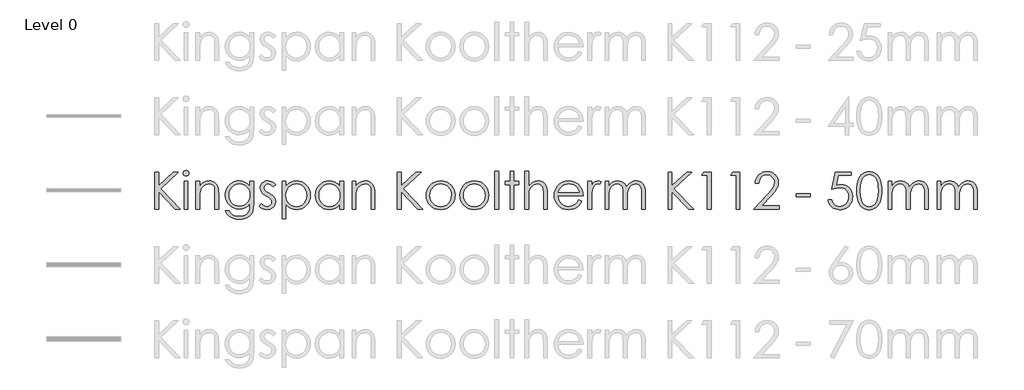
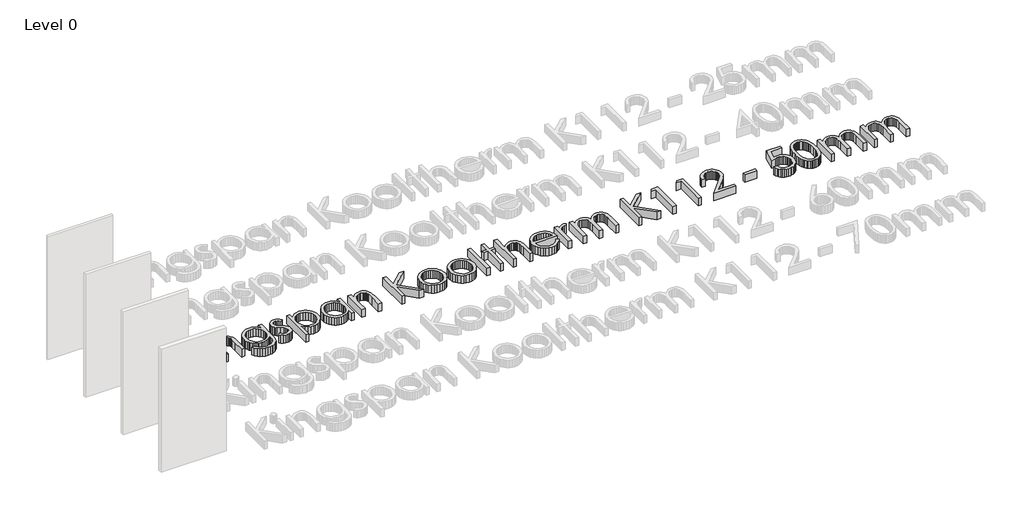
# One storey, part 12 of 14: 1 proxy.
"""IFC4 building model written with IfcOpenShell, lengths in millimetres."""

from ifc_helpers import new_model, si_unit, origin, origin_with_axes, place, context, project, spatial, polyline, outline, extrude, element, save

model = new_model("IFC4")

# Units and contexts
model_context = context("Model", 3, world=origin())
ifc_project = project(units=[si_unit("LENGTHUNIT", "METRE", prefix="MILLI")], contexts=[model_context])

# Site, building, storey
site = spatial("IfcSite", under=ifc_project)
building = spatial("IfcBuilding", under=site)
storey = spatial("IfcBuildingStorey", under=building, Name="Level 0", Elevation=0.0)

# Proxy
placement = place(None, origin())
element("IfcBuildingElementProxy", 1, Name="600mm KI_CenturyGothic", ObjectType="600mm KI_CenturyGothic", at=placement, inside=storey, context=model_context, shape_type="SweptSolid", body=[
    extrude(outline(polyline([(-3852.2663848, 3500.8965983), (-3792.944575, 3500.8965983), (-3792.944575, 3281.683973), (-3555.1938841, 3500.8965983), (-3471.6181051, 3500.8965983), (-3760.9664119, 3233.9484541), (-3441.9572002, 2907.6785001), (-3520.8984627, 2907.6785001), (-3792.944575, 3185.9039675), (-3792.944575, 2907.6785001), (-3852.2663848, 2907.6785001), (-3852.2663848, 3500.8965983)])), origin_with_axes(), (0.0, 0.0, 1.0), 150.0),
    extrude(outline(polyline([(-3348.1854852, 3530.5575033), (-3329.145347, 3527.2747208), (-3313.1176445, 3517.4263735), (-3302.226531, 3502.9821307), (-3298.5961598, 3485.911662), (-3302.226531, 3469.0729191), (-3313.1176445, 3454.7059183), (-3329.145347, 3444.857571), (-3348.1854852, 3441.5747885), (-3366.9938975, 3444.857571), (-3382.9443581, 3454.7059183), (-3393.8354717, 3469.0729191), (-3397.4658428, 3485.911662), (-3393.8354717, 3502.9821307), (-3382.9443581, 3517.4263735), (-3366.9938975, 3527.2747208), (-3348.1854852, 3530.5575033)])), origin_with_axes(), (0.0, 0.0, 1.0), 150.0),
    extrude(outline(polyline([(-3377.6919062, 3352.5920738), (-3318.3700964, 3352.5920738), (-3318.3700964, 2907.6785001), (-3377.6919062, 2907.6785001), (-3377.6919062, 3352.5920738)])), origin_with_axes(), (0.0, 0.0, 1.0), 150.0),
    extrude(outline(polyline([(-3189.8395084, 3352.5920738), (-3130.5176986, 3352.5920738), (-3130.5176986, 3273.4963274), (-3096.9946967, 3313.0055796), (-3060.0730495, 3340.696815), (-3019.7141359, 3357.0334853), (-2975.879335, 3362.4790421), (-2953.4357238, 3360.9004099), (-2932.2955704, 3356.1645135), (-2912.4588747, 3348.2713528), (-2893.9256368, 3337.2209277), (-2877.212412, 3323.4960006), (-2862.835756, 3307.5793333), (-2841.0921499, 3269.1707787), (-2833.6238199, 3244.7912914), (-2828.2892984, 3214.4448643), (-2824.0216812, 3135.8511905), (-2824.0216812, 2907.6785001), (-2883.343491, 2907.6785001), (-2883.343491, 3120.8662542), (-2883.343491, 3223.907002), (-2884.7290183, 3244.7043943), (-2889.8125035, 3262.7596977), (-2898.2849788, 3278.0729123), (-2910.1464442, 3290.644038), (-2924.7403432, 3300.4441091), (-2941.4101193, 3307.4441599), (-2980.977303, 3313.0442006), (-3005.3471351, 3310.8862539), (-3028.4038541, 3304.4124138), (-3050.1474602, 3293.6226803), (-3070.5779533, 3278.5170534), (-3088.6622225, 3260.2348518), (-3103.3671568, 3239.915394), (-3114.6927562, 3217.55868), (-3122.6390208, 3193.1647099), (-3128.5480292, 3146.0857475), (-3130.5176986, 3071.5858965), (-3130.5176986, 2907.6785001), (-3189.8395084, 2907.6785001), (-3189.8395084, 3352.5920738)])), origin_with_axes(), (0.0, 0.0, 1.0), 150.0),
    extrude(outline(polyline([(-2319.7862977, 3352.5920738), (-2260.4644879, 3352.5920738), (-2260.4644879, 3001.604699), (-2264.5196897, 2921.3503235), (-2269.588692, 2890.5500999), (-2276.6852953, 2865.9678526), (-2289.9371156, 2837.3545415), (-2307.2924139, 2812.2267729), (-2328.7511904, 2790.5845469), (-2354.3134448, 2772.4278634), (-2383.3226209, 2758.0656902), (-2415.122162, 2747.8069951), (-2449.7120682, 2741.651778), (-2487.0923395, 2739.6000389), (-2541.0458345, 2743.6166198), (-2589.206184, 2755.6663624), (-2630.260275, 2774.4940853), (-2662.8949946, 2798.8446068), (-2690.2000204, 2832.1938144), (-2715.2650299, 2878.0175952), (-2655.94322, 2878.0175952), (-2642.4355358, 2856.848476), (-2627.0933555, 2838.6048954), (-2609.9166791, 2823.2868532), (-2590.9055067, 2810.8943494), (-2569.7894914, 2801.3308318), (-2546.2982864, 2794.4997477), (-2492.1903075, 2789.0348805), (-2438.5071593, 2794.3645743), (-2415.083541, 2801.0266916), (-2393.93856, 2810.3536559), (-2359.6624492, 2834.3952097), (-2336.8567664, 2863.8823202), (-2329.3884364, 2882.5217658), (-2324.0539149, 2906.2302137), (-2319.7862977, 2968.8541165), (-2319.7862977, 2991.5632468), (-2354.757586, 2955.7809182), (-2396.6420279, 2929.3834852), (-2443.392712, 2913.1047464), (-2492.9627269, 2907.6785001), (-2522.4063889, 2909.5757553), (-2550.9521133, 2915.2675207), (-2578.5999001, 2924.7537964), (-2605.3497494, 2938.0345825), (-2630.1540674, 2954.5257366), (-2651.9652601, 2973.6431168), (-2670.7833277, 2995.3867228), (-2686.6082702, 3019.7565549), (-2699.1456025, 3046.0719183), (-2708.1008399, 3073.6521184), (-2713.4739824, 3102.4971553), (-2715.2650299, 3132.607029), (-2713.3967404, 3162.8955247), (-2707.7918722, 3192.1219437), (-2698.4504251, 3220.286286), (-2685.3723991, 3247.3885517), (-2668.9971079, 3272.5742517), (-2649.7638648, 3294.9888971), (-2627.67267, 3314.632488), (-2602.7235235, 3331.5050242), (-2575.9833294, 3345.056157), (-2548.5189922, 3354.7355376), (-2520.3305117, 3360.543166), (-2491.4178881, 3362.4790421), (-2444.5320306, 3357.5355579), (-2400.8903346, 3342.7051055), (-2359.6045177, 3316.1338782), (-2319.7862977, 3275.9680694), (-2319.7862977, 3352.5920738)]), holes=[polyline([(-2484.1571458, 3313.0442006), (-2529.0154023, 3307.0193293), (-2570.5908765, 3288.9447153), (-2606.2187212, 3260.2300242), (-2633.2340897, 3222.2849212), (-2650.2659375, 3178.0059792), (-2655.94322, 3130.2897708), (-2653.0080263, 3094.3770964), (-2644.2024452, 3061.7182387), (-2629.5264766, 3032.3131977), (-2608.9801206, 3006.1619734), (-2583.7606272, 2984.703197), (-2555.0652466, 2969.3754996), (-2522.8939786, 2960.1788811), (-2487.2468234, 2957.1133416), (-2451.3244937, 2960.154743), (-2419.1001219, 2969.2789472), (-2390.573708, 2984.4859541), (-2365.7452519, 3005.7757637), (-2345.6382095, 3032.0187128), (-2331.2760363, 3062.0851379), (-2322.6587323, 3095.975039), (-2319.7862977, 3133.6884162), (-2325.0773706, 3182.3894593), (-2340.9505892, 3225.6063246), (-2366.4983608, 3261.8327944), (-2400.8130926, 3289.5626508), (-2440.9982119, 3307.1738131), (-2484.1571458, 3313.0442006)])]), origin_with_axes(), (0.0, 0.0, 1.0), 150.0),
    extrude(outline(polyline([(-1904.5336289, 3301.3034257), (-1940.9918246, 3263.609359), (-1962.9575012, 3285.2371022), (-1984.6721416, 3300.6854902), (-2006.1357456, 3309.954523), (-2027.3483133, 3313.0442006), (-2052.181597, 3308.3710632), (-2073.2300256, 3294.3516511), (-2087.5970264, 3274.1142629), (-2092.3860267, 3250.787197), (-2088.4466878, 3229.2366958), (-2076.628671, 3208.7675817), (-2052.0657341, 3186.599145), (-2010.2006027, 3160.877579), (-1958.3326401, 3128.0111336), (-1939.8428507, 3112.1861912), (-1926.315856, 3096.7667689), (-1909.9791857, 3064.0934284), (-1904.5336289, 3027.5579908), (-1906.9474396, 3001.4115941), (-1914.1888714, 2977.3507299), (-1926.2579245, 2955.375398), (-1943.1545989, 2935.4855985), (-1963.6719892, 2918.9944443), (-1986.6031901, 2907.2150485), (-2011.9482016, 2900.147411), (-2039.7070237, 2897.7915318), (-2077.4397114, 2901.6729393), (-2113.3958344, 2913.3171617), (-2145.4512394, 2931.7972958), (-2171.4817731, 2956.1864383), (-2135.7959969, 2996.6612148), (-2114.0041146, 2975.0334717), (-2091.5749863, 2959.5850837), (-2068.5086121, 2950.3160509), (-2044.8049918, 2947.2263733), (-2013.637869, 2952.8650349), (-1987.4914724, 2969.7810198), (-1969.7644472, 2994.3439566), (-1963.8554388, 3022.9234744), (-1967.7561567, 3046.7139919), (-1979.4583106, 3067.7237995), (-2005.0253927, 3089.4287846), (-2050.2119275, 3116.2317378), (-2099.762632, 3146.8967879), (-2117.441381, 3162.0555186), (-2130.3890611, 3177.0983864), (-2146.3781427, 3209.2310334), (-2151.7078365, 3245.689229), (-2149.5305794, 3269.7356104), (-2142.9988078, 3291.6674937), (-2132.1125219, 3311.4848789), (-2116.8717217, 3329.187766), (-2098.309518, 3343.7526993), (-2077.4590218, 3354.1562231), (-2054.3202332, 3360.3983373), (-2028.8931521, 3362.4790421), (-1997.9481, 3358.6555661), (-1966.9064954, 3347.185138), (-1935.7683384, 3328.0677579), (-1904.5336289, 3301.3034257)])), origin_with_axes(), (0.0, 0.0, 1.0), 150.0),
    extrude(outline(polyline([(-1795.7769776, 3352.5920738), (-1736.4551678, 3352.5920738), (-1736.4551678, 3271.4880369), (-1700.9238754, 3311.7310876), (-1660.4490989, 3340.0788795), (-1614.9922173, 3356.8790014), (-1564.5146096, 3362.4790421), (-1520.0618732, 3358.2403906), (-1478.9305402, 3345.5244363), (-1441.1206107, 3324.331179), (-1406.6320845, 3294.6606189), (-1377.9077381, 3259.0231189), (-1357.3903478, 3219.929042), (-1345.0799137, 3177.3783884), (-1340.9764356, 3131.371158), (-1345.0412927, 3084.4708176), (-1357.235864, 3041.2491246), (-1377.5601494, 3001.706079), (-1406.014149, 2965.8416808), (-1440.2130179, 2936.0697406), (-1477.7719111, 2914.8040691), (-1518.6908288, 2902.0446661), (-1562.9697708, 2897.7915318), (-1612.6170277, 2903.256399), (-1658.0545988, 2919.6510008), (-1699.3211052, 2946.8980951), (-1736.4551678, 2984.92044), (-1736.4551678, 2749.4870072), (-1795.7769776, 2749.4870072), (-1795.7769776, 3352.5920738)]), holes=[polyline([(-1568.5311905, 3313.0442006), (-1602.5852307, 3309.7469353), (-1633.8392507, 3299.8551393), (-1662.2932503, 3283.3688128), (-1687.9472295, 3260.2879556), (-1709.1694525, 3232.3022353), (-1724.3281832, 3201.1013192), (-1733.4234216, 3166.6852074), (-1736.4551678, 3129.0538998), (-1731.048232, 3080.1983728), (-1714.8274246, 3036.5180558), (-1688.5265441, 2999.6736505), (-1652.8793888, 2971.3258586), (-1611.4390881, 2953.2512446), (-1567.7587711, 2947.2263733), (-1525.0632888, 2953.2898656), (-1485.0326535, 2971.4803424), (-1450.2544701, 3000.5812433), (-1423.3163435, 3039.3760076), (-1406.05277, 3084.0411593), (-1400.2982454, 3130.7532225), (-1405.9948385, 3177.6970114), (-1423.0846177, 3222.1304373), (-1449.8103289, 3260.4810605), (-1484.414718, 3289.1764411), (-1524.7157001, 3307.0772607), (-1568.5311905, 3313.0442006)])]), origin_with_axes(), (0.0, 0.0, 1.0), 150.0),
    extrude(outline(polyline([(-807.0801472, 3352.5920738), (-807.0801472, 2907.6785001), (-866.401957, 2907.6785001), (-866.401957, 2983.5300851), (-903.4780882, 2945.6815345), (-944.8797679, 2918.9558233), (-990.4525125, 2903.0826047), (-1040.0418379, 2897.7915318), (-1084.3159523, 2902.0446661), (-1125.2203871, 2914.8040691), (-1162.7551422, 2936.0697406), (-1196.9202178, 2965.8416808), (-1225.340424, 3001.706079), (-1245.6405713, 3041.2491246), (-1257.8206597, 3084.4708176), (-1261.8806892, 3131.371158), (-1257.7820388, 3177.3783884), (-1245.4860875, 3219.929042), (-1224.9928353, 3259.0231189), (-1196.3022822, 3294.6606189), (-1161.8475494, 3324.331179), (-1124.061758, 3345.5244363), (-1082.9449079, 3358.2403906), (-1038.4969991, 3362.4790421), (-987.7490446, 3356.8790014), (-942.0990581, 3340.0788795), (-921.2051134, 3327.3918909), (-901.6242816, 3311.7310876), (-866.401957, 3271.4880369), (-866.401957, 3352.5920738), (-807.0801472, 3352.5920738)]), holes=[polyline([(-1034.3259343, 3313.0442006), (-1078.1414247, 3307.0772607), (-1118.4424068, 3289.1764411), (-1153.0467959, 3260.4810605), (-1179.7725071, 3222.1304373), (-1196.8622863, 3177.6970114), (-1202.5588794, 3130.7532225), (-1196.8043548, 3084.0411593), (-1179.5407813, 3039.3760076), (-1152.6026548, 3000.5812433), (-1117.8244713, 2971.4803424), (-1077.6779731, 2953.2898656), (-1034.6349021, 2947.2263733), (-991.0125165, 2953.2512446), (-949.7460102, 2971.3258586), (-914.2726493, 2999.6736505), (-888.0297002, 3036.5180558), (-871.8088928, 3080.1983728), (-866.401957, 3129.0538998), (-869.4337032, 3166.6852074), (-878.5289416, 3201.1013192), (-893.6876723, 3232.3022353), (-914.9098953, 3260.2879556), (-940.5638746, 3283.3688128), (-969.0178742, 3299.8551393), (-1000.2718941, 3309.7469353), (-1034.3259343, 3313.0442006)])]), origin_with_axes(), (0.0, 0.0, 1.0), 150.0),
    extrude(outline(polyline([(-668.662591, 3352.5920738), (-609.3407811, 3352.5920738), (-609.3407811, 3273.4963274), (-575.8177792, 3313.0055796), (-538.896132, 3340.696815), (-498.5372184, 3357.0334853), (-454.7024175, 3362.4790421), (-432.2588064, 3360.9004099), (-411.1186529, 3356.1645135), (-391.2819572, 3348.2713528), (-372.7487193, 3337.2209277), (-356.0354946, 3323.4960006), (-341.6588385, 3307.5793333), (-319.9152324, 3269.1707787), (-312.4469024, 3244.7912914), (-307.1123809, 3214.4448643), (-302.8447637, 3135.8511905), (-302.8447637, 2907.6785001), (-362.1665735, 2907.6785001), (-362.1665735, 3120.8662542), (-362.1665735, 3223.907002), (-363.5521008, 3244.7043943), (-368.635586, 3262.7596977), (-377.1080613, 3278.0729123), (-388.9695267, 3290.644038), (-403.5634257, 3300.4441091), (-420.2332018, 3307.4441599), (-459.8003855, 3313.0442006), (-484.1702176, 3310.8862539), (-507.2269366, 3304.4124138), (-528.9705427, 3293.6226803), (-549.4010358, 3278.5170534), (-567.485305, 3260.2348518), (-582.1902393, 3239.915394), (-593.5158387, 3217.55868), (-601.4621033, 3193.1647099), (-607.3711117, 3146.0857475), (-609.3407811, 3071.5858965), (-609.3407811, 2907.6785001), (-668.662591, 2907.6785001), (-668.662591, 3352.5920738)])), origin_with_axes(), (0.0, 0.0, 1.0), 150.0),
    extrude(outline(polyline([(62.9730635, 3500.8965983), (122.2948734, 3500.8965983), (122.2948734, 3281.683973), (360.0455643, 3500.8965983), (443.6213432, 3500.8965983), (154.2730365, 3233.9484541), (473.2822481, 2907.6785001), (394.3409856, 2907.6785001), (122.2948734, 3185.9039675), (122.2948734, 2907.6785001), (62.9730635, 2907.6785001), (62.9730635, 3500.8965983)])), origin_with_axes(), (0.0, 0.0, 1.0), 150.0),
    extrude(outline(polyline([(760.1588128, 3362.4790421), (809.4681362, 3357.8541809), (854.3553585, 3343.9795975), (894.8204798, 3320.8552917), (930.8635, 3288.4812637), (957.7630055, 3253.2492839), (976.9769381, 3214.908316), (988.5052976, 3173.45836), (992.3480841, 3128.8994159), (988.283227, 3084.0846079), (976.0886558, 3042.1760279), (955.7643703, 3003.1736759), (927.3103707, 2967.0775519), (892.4742558, 2936.7649181), (853.0036246, 2915.1130368), (808.8984769, 2902.1219081), (760.1588128, 2897.7915318), (711.2839754, 2902.1219081), (667.0822753, 2915.1130368), (627.5537126, 2936.7649181), (592.6982872, 2967.0775519), (564.2442876, 3003.1736759), (543.9200022, 3042.1760279), (531.7254309, 3084.0846079), (527.6605738, 3128.8994159), (531.5033603, 3173.2652551), (543.0317198, 3214.5993482), (562.2456524, 3252.9016951), (589.145158, 3288.1722959), (625.2074886, 3320.6814974), (665.7305413, 3343.9023555), (710.7143161, 3357.8348705), (760.1588128, 3362.4790421)]), holes=[polyline([(760.004329, 3313.0442006), (725.7282181, 3309.6696933), (693.9624704, 3299.5461716), (664.7070856, 3282.6736353), (637.962064, 3259.0520846), (615.6584538, 3230.6415336), (599.7273037, 3199.4019965), (590.1686137, 3165.3334734), (586.9823836, 3128.4359643), (592.7948396, 3080.7004454), (610.2322075, 3036.3635719), (637.5758543, 2998.5729529), (673.1071466, 2970.4761972), (714.6439998, 2953.0388293), (760.004329, 2947.2263733), (805.3646581, 2953.0388293), (846.9015113, 2970.4761972), (882.4328037, 2998.5729529), (909.7764504, 3036.3635719), (927.2138183, 3080.7004454), (933.0262743, 3128.4359643), (929.8255614, 3165.3334734), (920.2234227, 3199.4019965), (904.2198583, 3230.6415336), (881.8148681, 3259.0520846), (854.9974321, 3282.6736353), (825.7565303, 3299.5461716), (794.0921625, 3309.6696933), (760.004329, 3313.0442006)])]), origin_with_axes(), (0.0, 0.0, 1.0), 150.0),
    extrude(outline(polyline([(1303.9420695, 3362.4790421), (1353.2513929, 3357.8541809), (1398.1386152, 3343.9795975), (1438.6037365, 3320.8552917), (1474.6467567, 3288.4812637), (1501.5462622, 3253.2492839), (1520.7601948, 3214.908316), (1532.2885543, 3173.45836), (1536.1313408, 3128.8994159), (1532.0664837, 3084.0846079), (1519.8719125, 3042.1760279), (1499.547627, 3003.1736759), (1471.0936274, 2967.0775519), (1436.2575126, 2936.7649181), (1396.7868813, 2915.1130368), (1352.6817336, 2902.1219081), (1303.9420695, 2897.7915318), (1255.0672321, 2902.1219081), (1210.865532, 2915.1130368), (1171.3369693, 2936.7649181), (1136.4815439, 2967.0775519), (1108.0275443, 3003.1736759), (1087.7032589, 3042.1760279), (1075.5086876, 3084.0846079), (1071.4438305, 3128.8994159), (1075.286617, 3173.2652551), (1086.8149766, 3214.5993482), (1106.0289091, 3252.9016951), (1132.9284147, 3288.1722959), (1168.9907453, 3320.6814974), (1209.5137981, 3343.9023555), (1254.4975728, 3357.8348705), (1303.9420695, 3362.4790421)]), holes=[polyline([(1303.7875857, 3313.0442006), (1269.5114748, 3309.6696933), (1237.7457271, 3299.5461716), (1208.4903423, 3282.6736353), (1181.7453207, 3259.0520846), (1159.4417105, 3230.6415336), (1143.5105604, 3199.4019965), (1133.9518704, 3165.3334734), (1130.7656404, 3128.4359643), (1136.5780963, 3080.7004454), (1154.0154643, 3036.3635719), (1181.359111, 2998.5729529), (1216.8904033, 2970.4761972), (1258.4272565, 2953.0388293), (1303.7875857, 2947.2263733), (1349.1479149, 2953.0388293), (1390.684768, 2970.4761972), (1426.2160604, 2998.5729529), (1453.5597071, 3036.3635719), (1470.997075, 3080.7004454), (1476.809531, 3128.4359643), (1473.6088181, 3165.3334734), (1464.0066795, 3199.4019965), (1448.003115, 3230.6415336), (1425.5981249, 3259.0520846), (1398.7806889, 3282.6736353), (1369.539787, 3299.5461716), (1337.8754193, 3309.6696933), (1303.7875857, 3313.0442006)])]), origin_with_axes(), (0.0, 0.0, 1.0), 150.0),
    extrude(outline(polyline([(1635.0010238, 3520.6705349), (1694.3228337, 3520.6705349), (1694.3228337, 2907.6785001), (1635.0010238, 2907.6785001), (1635.0010238, 3520.6705349)])), origin_with_axes(), (0.0, 0.0, 1.0), 150.0),
    extrude(outline(polyline([(1882.1752314, 3520.6705349), (1941.4970413, 3520.6705349), (1941.4970413, 3352.5920738), (2020.5927877, 3352.5920738), (2020.5927877, 3303.1572323), (1941.4970413, 3303.1572323), (1941.4970413, 2907.6785001), (1882.1752314, 2907.6785001), (1882.1752314, 3303.1572323), (1803.079485, 3303.1572323), (1803.079485, 3352.5920738), (1882.1752314, 3352.5920738), (1882.1752314, 3520.6705349)])), origin_with_axes(), (0.0, 0.0, 1.0), 150.0),
    extrude(outline(polyline([(2119.4624707, 3520.6705349), (2178.7842806, 3520.6705349), (2178.7842806, 3271.9514886), (2212.5583188, 3311.6538456), (2249.6151394, 3339.9243956), (2289.9161216, 3356.8403805), (2333.4226442, 3362.4790421), (2355.8662553, 3360.9004099), (2377.0064088, 3356.1645135), (2396.8431044, 3348.2713528), (2415.3763424, 3337.2209277), (2432.0895671, 3323.5104834), (2446.4662232, 3307.6372648), (2468.2098293, 3269.4025045), (2475.6781593, 3245.0954316), (2481.0126808, 3214.7345216), (2485.280298, 3135.8511905), (2485.280298, 2907.6785001), (2425.9584882, 2907.6785001), (2425.9584882, 3120.8662542), (2424.5681332, 3185.247411), (2420.3970685, 3223.907002), (2406.879729, 3262.7596977), (2397.1665551, 3278.0729123), (2385.4837117, 3290.644038), (2371.840854, 3300.4441091), (2356.2476374, 3307.4441599), (2319.2101273, 3313.0442006), (2296.3416854, 3310.8862539), (2274.6994594, 3304.4124138), (2254.2834492, 3293.6226803), (2235.0936547, 3278.5170534), (2218.1052556, 3260.2348518), (2204.2934312, 3239.915394), (2193.6581816, 3217.55868), (2186.1995068, 3193.1647099), (2180.6380871, 3146.3174733), (2178.7842806, 3071.5858965), (2178.7842806, 2907.6785001), (2119.4624707, 2907.6785001), (2119.4624707, 3520.6705349)])), origin_with_axes(), (0.0, 0.0, 1.0), 150.0),
    extrude(outline(polyline([(2991.0605203, 3055.9830247), (3038.950523, 3030.8021523), (3013.3255094, 2988.9177104), (2984.0315038, 2955.9547125), (2950.952643, 2930.8703926), (2913.9730643, 2912.6219843), (2872.4941426, 2901.4991449), (2825.9172528, 2897.7915318), (2774.4258447, 2902.2232881), (2728.8627554, 2915.518557), (2689.227985, 2937.6773385), (2655.5215335, 2968.6996326), (2628.6220279, 3005.3026569), (2609.4080954, 3044.2036288), (2597.8797358, 3085.4025485), (2594.0369493, 3128.8994159), (2597.3197318, 3169.7797126), (2607.1680791, 3208.381372), (2623.5819913, 3244.7043943), (2646.5614684, 3278.7487793), (2682.7493173, 3315.3807692), (2724.5758277, 3341.5464764), (2772.0409998, 3357.2459007), (2825.1448334, 3362.4790421), (2879.7935059, 3357.1107273), (2928.6490329, 3341.0057828), (2971.7114143, 3314.1642087), (3008.9806503, 3276.5860049), (3030.4539096, 3244.414737), (3045.9022976, 3208.458614), (3055.3258143, 3168.7176359), (3058.7244596, 3125.1918028), (2653.3587591, 3125.1918028), (2657.095338, 3087.9370497), (2666.6057518, 3054.1871496), (2681.8900007, 3023.9421025), (2702.9480845, 2997.2019084), (2728.3124066, 2975.3376118), (2756.5153699, 2959.7202571), (2787.5569744, 2950.3498443), (2821.4372203, 2947.2263733), (2854.9602222, 2950.238809), (2887.5563208, 2959.2761159), (2917.2944677, 2973.3148385), (2942.2436143, 2991.331521), (2965.725164, 3017.4972281), (2991.0605203, 3055.9830247)]), holes=[polyline([(2999.4026498, 3174.6266443), (2984.9777175, 3217.1483322), (2965.1844704, 3250.1692615), (2939.0766947, 3275.6977226), (2905.7081767, 3295.742006), (2867.7630738, 3308.7186519), (2827.9255433, 3313.0442006), (2795.503239, 3310.3310774), (2765.4368139, 3302.191708), (2737.726268, 3288.6260923), (2712.3716012, 3269.6342304), (2695.8321708, 3251.820308), (2681.4362043, 3230.0477362), (2669.1837016, 3204.316515), (2659.0746627, 3174.6266443), (2999.4026498, 3174.6266443)])]), origin_with_axes(), (0.0, 0.0, 1.0), 150.0),
    extrude(outline(polyline([(3137.820206, 3352.5920738), (3197.1420159, 3352.5920738), (3197.1420159, 3288.1722959), (3222.6897875, 3321.2125357), (3249.589293, 3344.3271862), (3277.7632906, 3357.9410781), (3307.1345382, 3362.4790421), (3330.4616041, 3358.694187), (3355.3335087, 3347.3396219), (3325.8270877, 3305.3200066), (3297.2475699, 3313.0442006), (3270.8308265, 3307.0965712), (3245.3409863, 3289.2536831), (3223.2884125, 3258.8976007), (3207.183468, 3215.4103886), (3199.6523789, 3157.2858288), (3197.1420159, 3059.8451217), (3197.1420159, 2907.6785001), (3137.820206, 2907.6785001), (3137.820206, 3352.5920738)])), origin_with_axes(), (0.0, 0.0, 1.0), 150.0),
    extrude(outline(polyline([(3414.6553185, 3352.5920738), (3473.9771284, 3352.5920738), (3473.9771284, 3276.4315211), (3503.5607913, 3312.9283377), (3533.9168737, 3338.0705891), (3577.3268439, 3356.3769288), (3622.8995884, 3362.4790421), (3653.7384329, 3359.331433), (3682.9165757, 3349.8886059), (3708.6767627, 3335.2126373), (3729.2617397, 3316.365604), (3746.0425511, 3290.9336953), (3760.3902414, 3256.5031006), (3775.16759, 3280.9018983), (3791.6925376, 3302.191708), (3809.965084, 3320.3725296), (3829.9852293, 3335.4443631), (3851.2798666, 3347.2720352), (3873.375889, 3355.7203723), (3896.2732965, 3360.7893747), (3919.9720892, 3362.4790421), (3962.3006723, 3356.6665861), (3981.4952943, 3349.4010161), (3999.3768034, 3339.2292182), (4015.4914031, 3326.46016), (4029.385297, 3311.4028093), (4050.5109676, 3274.4232306), (4057.8103309, 3251.0478886), (4063.0241619, 3222.4780261), (4067.1952266, 3149.7547397), (4067.1952266, 2907.6785001), (4007.8734168, 2907.6785001), (4007.8734168, 3153.3078689), (4005.4209852, 3214.4255538), (3998.0636904, 3252.8727294), (3984.7587663, 3277.3391139), (3964.4634466, 3296.5144254), (3938.3942919, 3308.9117568), (3907.7678627, 3313.0442006), (3888.1194443, 3311.4945341), (3869.3399976, 3306.8455349), (3834.3880198, 3288.2495379), (3805.6540182, 3259.3031209), (3785.8800816, 3222.0531954), (3779.1889985, 3197.8957787), (3774.4096535, 3166.8252084), (3770.5861775, 3083.9446069), (3770.5861775, 2907.6785001), (3711.2643677, 2907.6785001), (3711.2643677, 3138.0139648), (3708.850557, 3206.469634), (3701.6091252, 3248.7016647), (3688.3621325, 3274.9446137), (3667.9316394, 3295.4330383), (3641.6114484, 3308.64141), (3610.6953619, 3313.0442006), (3573.7544042, 3307.0000188), (3539.2465676, 3288.8674734), (3510.2808401, 3260.500371), (3489.9662099, 3223.7525181), (3477.9743988, 3171.9231764), (3473.9771284, 3098.3116077), (3473.9771284, 2907.6785001), (3414.6553185, 2907.6785001), (3414.6553185, 3352.5920738)])), origin_with_axes(), (0.0, 0.0, 1.0), 150.0),
    extrude(outline(polyline([(4433.0130538, 3500.8965983), (4492.3348637, 3500.8965983), (4492.3348637, 3281.683973), (4730.0855546, 3500.8965983), (4813.6613335, 3500.8965983), (4524.3130268, 3233.9484541), (4843.3222385, 2907.6785001), (4764.3809759, 2907.6785001), (4492.3348637, 3185.9039675), (4492.3348637, 2907.6785001), (4433.0130538, 2907.6785001), (4433.0130538, 3500.8965983)])), origin_with_axes(), (0.0, 0.0, 1.0), 150.0),
    extrude(outline(polyline([(5010.6282802, 3500.8965983), (5125.1008351, 3500.8965983), (5125.1008351, 2907.6785001), (5065.7790253, 2907.6785001), (5065.7790253, 3451.4617568), (4976.7963106, 3451.4617568), (5010.6282802, 3500.8965983)])), origin_with_axes(), (0.0, 0.0, 1.0), 150.0),
    extrude(outline(polyline([(5475.3157905, 3500.8965983), (5589.7883454, 3500.8965983), (5589.7883454, 2907.6785001), (5530.4665356, 2907.6785001), (5530.4665356, 3451.4617568), (5441.4838208, 3451.4617568), (5475.3157905, 3500.8965983)])), origin_with_axes(), (0.0, 0.0, 1.0), 150.0),
    extrude(outline(polyline([(5896.2843628, 3322.9311689), (5836.962553, 3322.9311689), (5841.4474131, 3362.1893848), (5852.5847353, 3397.7786086), (5870.3745196, 3429.6988403), (5894.816766, 3457.9500798), (5924.2121517, 3481.0647303), (5956.8613542, 3497.5751949), (5992.7643733, 3507.4814737), (6031.9212092, 3510.7835666), (6070.3925229, 3507.4863013), (6105.0113948, 3497.5945054), (6135.777825, 3481.1081789), (6162.6918135, 3458.0273217), (6184.5561101, 3430.466432), (6200.1734648, 3400.540008), (6209.5438776, 3368.2480495), (6212.6673485, 3333.5905566), (6206.5845458, 3284.7929611), (6188.3361375, 3239.1236641), (6152.5538088, 3187.236391), (6093.869245, 3119.784867), (5941.084688, 2957.1133416), (6222.5543169, 2957.1133416), (6222.5543169, 2907.6785001), (5817.1886164, 2907.6785001), (6043.1985325, 3148.3643848), (6099.9327373, 3213.8848603), (6132.6446988, 3259.9789879), (6148.1703288, 3297.3447763), (6153.3455387, 3336.6802342), (6151.0958672, 3361.2866196), (6144.3468527, 3384.1260957), (6133.0984952, 3405.1986625), (6117.3507947, 3424.5043198), (6098.3396223, 3440.6237471), (6077.3008489, 3452.1376238), (6054.2344746, 3459.0459498), (6029.1404994, 3461.3487251), (6002.8058255, 3459.0749155), (5978.7980651, 3452.2534867), (5957.1172181, 3440.8844387), (5937.7632845, 3424.9677714), (5921.5279943, 3404.9476262), (5909.2030773, 3381.268144), (5900.7885334, 3353.9293249), (5896.2843628, 3322.9311689)])), origin_with_axes(), (0.0, 0.0, 1.0), 150.0),
    extrude(outline(polyline([(6499.3894294, 3154.8527077), (6726.7897004, 3154.8527077), (6726.7897004, 3105.4178662), (6499.3894294, 3105.4178662), (6499.3894294, 3154.8527077)])), origin_with_axes(), (0.0, 0.0, 1.0), 150.0),
    extrude(outline(polyline([(7389.2165767, 3500.8965983), (7389.2165767, 3451.4617568), (7181.8992101, 3451.4617568), (7147.4493049, 3290.4895541), (7185.0275087, 3299.9903127), (7218.6663735, 3303.1572323), (7258.2528677, 3299.7344488), (7294.2089907, 3289.4660984), (7326.5347425, 3272.3521811), (7355.2301232, 3248.3926969), (7378.7502939, 3219.0842083), (7395.5504158, 3185.923278), (7405.6304889, 3148.909906), (7408.9905133, 3108.0440921), (7407.2670525, 3079.0783647), (7402.0966702, 3051.3485083), (7393.4793663, 3024.8545229), (7381.4151408, 2999.5964086), (7366.410894, 2976.3948609), (7348.973526, 2956.0705754), (7329.103037, 2938.6235523), (7306.7994269, 2924.0537914), (7282.3668358, 2912.5640528), (7256.1094038, 2904.3570967), (7228.0271311, 2899.432923), (7198.1200175, 2897.7915318), (7162.7866576, 2900.5481035), (7130.3209047, 2908.8178187), (7100.7227589, 2922.6006774), (7073.9922201, 2941.8966795), (7051.2396412, 2965.5665064), (7033.575375, 2992.4708396), (7020.9994217, 3022.609679), (7013.5117812, 3055.9830247), (7072.833591, 3055.9830247), (7082.4115915, 3023.2517526), (7096.9330762, 2997.3563923), (7116.7649443, 2977.0417621), (7142.2740949, 2961.0526806), (7171.2977538, 2950.6829501), (7201.6731467, 2947.2263733), (7230.9623248, 2950.1519118), (7258.1176943, 2958.9285272), (7283.1392552, 2973.5562196), (7306.0270075, 2994.0349889), (7325.1202495, 3018.9068935), (7338.7582795, 3046.7139919), (7346.9410975, 3077.456284), (7349.6687035, 3111.1337697), (7347.2066167, 3141.3208854), (7339.8203562, 3168.5438415), (7327.509922, 3192.8026383), (7310.2753142, 3214.0972756), (7288.9179178, 3231.4332635), (7264.239118, 3243.816112), (7236.2389148, 3251.245821), (7204.9173082, 3253.7223907), (7176.2122723, 3251.8685842), (7144.6299741, 3246.3071645), (7072.833591, 3224.0614858), (7132.1554008, 3500.8965983), (7389.2165767, 3500.8965983)])), origin_with_axes(), (0.0, 0.0, 1.0), 150.0),
    extrude(outline(polyline([(7478.1992914, 3204.1330653), (7479.7779236, 3258.5644948), (7484.51382, 3306.4593252), (7492.4069808, 3347.8175564), (7503.4574058, 3382.6391884), (7517.3850931, 3412.2807828), (7533.9100406, 3438.0989012), (7553.0322483, 3460.0935436), (7574.7517163, 3478.26471), (7598.4456813, 3492.4917098), (7623.4913804, 3502.6538525), (7649.8888133, 3508.7511381), (7677.6379802, 3510.7835666), (7705.8409435, 3508.7366552), (7732.6728624, 3502.595921), (7758.1337368, 3492.361364), (7782.2235668, 3478.0329841), (7804.4064864, 3459.6156091), (7824.1466297, 3437.1140665), (7841.4439966, 3410.5283563), (7856.2985871, 3379.8584786), (7868.2276392, 3344.3416691), (7876.7483907, 3303.2151637), (7881.8608416, 3256.4789625), (7883.5649919, 3204.1330653), (7881.8849797, 3151.9464797), (7876.8449431, 3105.3792452), (7868.4448822, 3064.4313618), (7856.6847968, 3029.1028296), (7841.9750349, 2998.5777805), (7824.7259442, 2972.0403465), (7804.9375247, 2949.4905277), (7782.6097765, 2930.928324), (7758.3509797, 2916.4309774), (7732.7694148, 2906.0757299), (7705.8650816, 2899.8625813), (7677.6379802, 2897.7915318), (7649.9129514, 2899.7998222), (7623.5879328, 2905.8246936), (7598.6629243, 2915.8661457), (7575.137926, 2929.9241788), (7553.5632867, 2947.9601718), (7534.4893551, 2969.9355036), (7517.9161314, 2995.8501745), (7503.8436155, 3025.7041842), (7492.6242237, 3060.7237487), (7484.6103725, 3102.1350837), (7479.8020617, 3149.9381893), (7478.1992914, 3204.1330653)]), holes=[polyline([(7537.5211013, 3204.2875492), (7541.9045814, 3115.961391), (7547.3839315, 3080.9804475), (7555.0550216, 3052.1209277), (7564.8695756, 3027.8814414), (7576.7793172, 3006.7605985), (7590.7842464, 2988.7583989), (7606.8843633, 2973.8748426), (7642.1839298, 2953.8884906), (7660.586822, 2948.8919027), (7679.4917868, 2947.2263733), (7698.4836487, 2948.8581093), (7716.8382647, 2953.7533172), (7751.6357586, 2973.334149), (7767.3931143, 2988.0101176), (7781.1421796, 3005.9302476), (7792.8829545, 3027.0945392), (7802.6154389, 3051.5029922), (7812.0775766, 3084.8618549), (7818.8362463, 3121.4455687), (7824.2431821, 3204.2875492), (7819.4155608, 3285.8936587), (7813.3810343, 3320.5849449), (7804.9326971, 3351.2017189), (7794.3505514, 3377.864671), (7781.914599, 3400.6944918), (7767.6248402, 3419.6911814), (7751.4812747, 3434.8547397), (7716.413434, 3454.7252288), (7698.1843362, 3459.692851), (7679.4917868, 3461.3487251), (7660.4757867, 3459.692851), (7642.0487564, 3454.7252288), (7606.9616052, 3434.8547397), (7591.0159723, 3420.0435978), (7577.088285, 3402.1041572), (7565.1785434, 3381.0364181), (7555.2867474, 3356.8403805), (7547.5142772, 3327.9856883), (7541.9625128, 3292.9419857), (7537.5211013, 3204.2875492)])]), origin_with_axes(), (0.0, 0.0, 1.0), 150.0),
    extrude(outline(polyline([(7982.4346749, 3352.5920738), (8041.7564848, 3352.5920738), (8041.7564848, 3276.4315211), (8071.3401477, 3312.9283377), (8101.6962301, 3338.0705891), (8145.1062003, 3356.3769288), (8190.6789448, 3362.4790421), (8221.5177893, 3359.331433), (8250.6959321, 3349.8886059), (8276.4561191, 3335.2126373), (8297.0410961, 3316.365604), (8313.8219075, 3290.9336953), (8328.1695978, 3256.5031006), (8342.9469464, 3280.9018983), (8359.471894, 3302.191708), (8377.7444404, 3320.3725296), (8397.7645856, 3335.4443631), (8419.0592229, 3347.2720352), (8441.1552454, 3355.7203723), (8464.0526529, 3360.7893747), (8487.7514456, 3362.4790421), (8530.0800287, 3356.6665861), (8549.2746507, 3349.4010161), (8567.1561598, 3339.2292182), (8583.2707595, 3326.46016), (8597.1646534, 3311.4028093), (8618.290324, 3274.4232306), (8625.5896873, 3251.0478886), (8630.8035182, 3222.4780261), (8634.974583, 3149.7547397), (8634.974583, 2907.6785001), (8575.6527732, 2907.6785001), (8575.6527732, 3153.3078689), (8573.2003416, 3214.4255538), (8565.8430468, 3252.8727294), (8552.5381227, 3277.3391139), (8532.242803, 3296.5144254), (8506.1736483, 3308.9117568), (8475.5472191, 3313.0442006), (8455.8988006, 3311.4945341), (8437.119354, 3306.8455349), (8402.1673762, 3288.2495379), (8373.4333746, 3259.3031209), (8353.659438, 3222.0531954), (8346.9683549, 3197.8957787), (8342.1890099, 3166.8252084), (8338.3655339, 3083.9446069), (8338.3655339, 2907.6785001), (8279.0437241, 2907.6785001), (8279.0437241, 3138.0139648), (8276.6299134, 3206.469634), (8269.3884816, 3248.7016647), (8256.1414889, 3274.9446137), (8235.7109958, 3295.4330383), (8209.3908048, 3308.64141), (8178.4747183, 3313.0442006), (8141.5337606, 3307.0000188), (8107.025924, 3288.8674734), (8078.0601965, 3260.500371), (8057.7455663, 3223.7525181), (8045.7537552, 3171.9231764), (8041.7564848, 3098.3116077), (8041.7564848, 2907.6785001), (7982.4346749, 2907.6785001), (7982.4346749, 3352.5920738)])), origin_with_axes(), (0.0, 0.0, 1.0), 150.0),
    extrude(outline(polyline([(8773.3921393, 3352.5920738), (8832.7139491, 3352.5920738), (8832.7139491, 3276.4315211), (8862.2976121, 3312.9283377), (8892.6536944, 3338.0705891), (8936.0636646, 3356.3769288), (8981.6364092, 3362.4790421), (9012.4752537, 3359.331433), (9041.6533964, 3349.8886059), (9067.4135834, 3335.2126373), (9087.9985604, 3316.365604), (9104.7793718, 3290.9336953), (9119.1270621, 3256.5031006), (9133.9044108, 3280.9018983), (9150.4293583, 3302.191708), (9168.7019047, 3320.3725296), (9188.72205, 3335.4443631), (9210.0166873, 3347.2720352), (9232.1127097, 3355.7203723), (9255.0101172, 3360.7893747), (9278.7089099, 3362.4790421), (9321.037493, 3356.6665861), (9340.232115, 3349.4010161), (9358.1136241, 3339.2292182), (9374.2282238, 3326.46016), (9388.1221177, 3311.4028093), (9409.2477883, 3274.4232306), (9416.5471516, 3251.0478886), (9421.7609826, 3222.4780261), (9425.9320473, 3149.7547397), (9425.9320473, 2907.6785001), (9366.6102375, 2907.6785001), (9366.6102375, 3153.3078689), (9364.1578059, 3214.4255538), (9356.8005111, 3252.8727294), (9343.495587, 3277.3391139), (9323.2002673, 3296.5144254), (9297.1311126, 3308.9117568), (9266.5046834, 3313.0442006), (9246.856265, 3311.4945341), (9228.0768183, 3306.8455349), (9193.1248405, 3288.2495379), (9164.3908389, 3259.3031209), (9144.6169023, 3222.0531954), (9137.9258192, 3197.8957787), (9133.1464742, 3166.8252084), (9129.3229982, 3083.9446069), (9129.3229982, 2907.6785001), (9070.0011884, 2907.6785001), (9070.0011884, 3138.0139648), (9067.5873778, 3206.469634), (9060.3459459, 3248.7016647), (9047.0989532, 3274.9446137), (9026.6684601, 3295.4330383), (9000.3482691, 3308.64141), (8969.4321827, 3313.0442006), (8932.4912249, 3307.0000188), (8897.9833883, 3288.8674734), (8869.0176608, 3260.500371), (8848.7030306, 3223.7525181), (8836.7112195, 3171.9231764), (8832.7139491, 3098.3116077), (8832.7139491, 2907.6785001), (8773.3921393, 2907.6785001), (8773.3921393, 3352.5920738)])), origin_with_axes(), (0.0, 0.0, 1.0), 150.0),
])

save(model, "model.ifc")
